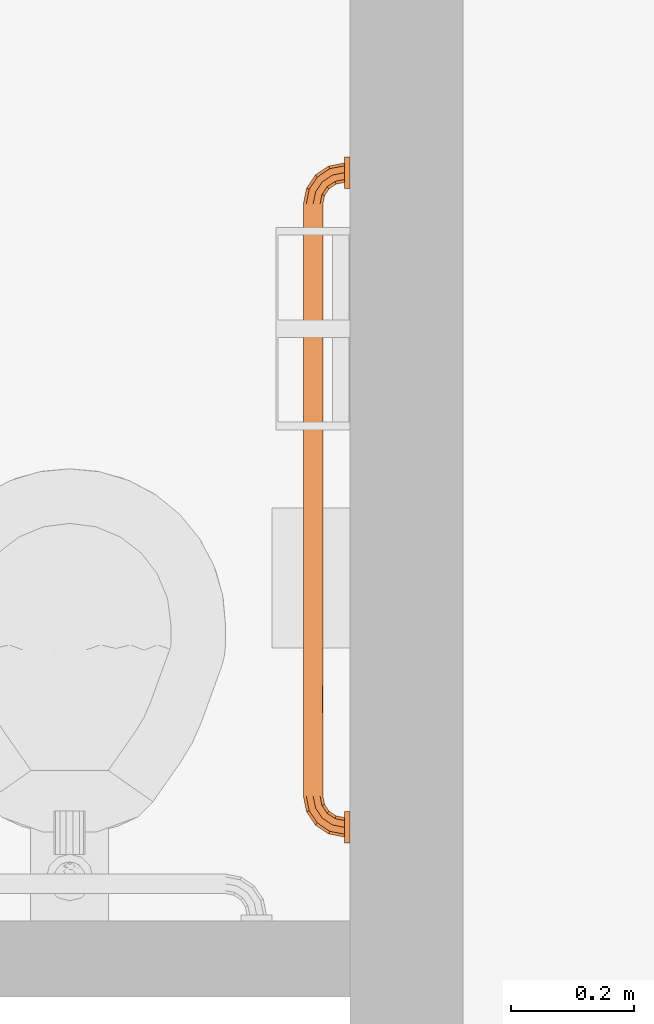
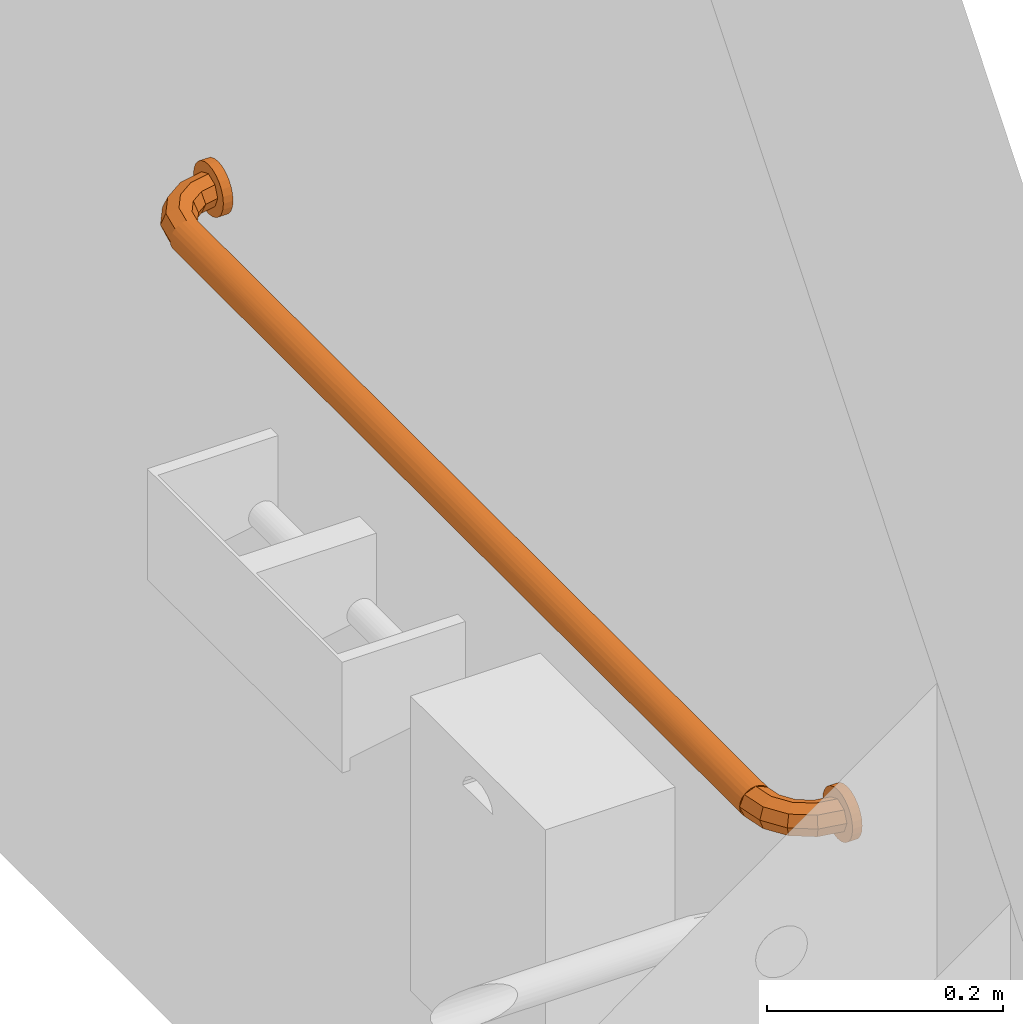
# One storey, part 42 of 142: 1 proxy.
"""IFC2X3 building model written with IfcOpenShell, lengths in feet."""

import ifcopenshell
import ifcopenshell.guid

model = None  # the IFC model being written
_history = None  # IfcOwnerHistory: only IFC2X3 demands one
_inside = {}  # id of a spatial element -> (the spatial element, [elements in it])
_under = {}  # id of a project, library or spatial element -> (it, [spatial elements below it])
_declared = {}  # id of a project -> (the project, [libraries it declares])
_typed = {}  # id of a type object -> (the type object, [elements of that type])
_made_of = {}  # id of a material, layer set ... -> (it, [elements and type objects made of it])


def new_model(schema):
    """Start an empty IFC model of exactly this schema.

    Asked for "IFC4X3", IfcOpenShell would pick the latest addendum, in which some entities
    have other attributes; the version numbers below select the first issue.
    IFC2X3 requires an IfcOwnerHistory on every rooted entity: one is made here for all.
    """
    global model, _history
    if schema == "IFC4X3":
        model = ifcopenshell.file(schema_version=(4, 3, 0, 0))
    else:
        model = ifcopenshell.file(schema=schema)
    _inside.clear()
    _under.clear()
    _declared.clear()
    _typed.clear()
    _made_of.clear()
    _history = None
    if model.schema == "IFC2X3":
        org = make("IfcOrganization", Name="unknown")
        user = make(
            "IfcPersonAndOrganization",
            ThePerson=make("IfcPerson", FamilyName="unknown"),
            TheOrganization=org,
        )
        app = make(
            "IfcApplication",
            ApplicationDeveloper=org,
            Version="unknown",
            ApplicationFullName="unknown",
            ApplicationIdentifier="unknown",
        )
        _history = make(
            "IfcOwnerHistory",
            OwningUser=user,
            OwningApplication=app,
            ChangeAction="ADDED",
            CreationDate=0,
        )
    return model


def make(cls, **values):
    """One entity of the class cls with the attributes given. An attribute that is None is left unset."""
    return model.create_entity(
        cls, **{name: value for name, value in values.items() if value is not None}
    )


def entity(cls, *values):
    """Any entity or typed value of the class cls, its attributes in the order of the schema. None: left unset."""
    e = model.create_entity(cls)
    for i, value in enumerate(values):
        if value is not None:
            e[i] = value
    return e


def rooted(cls, **values):
    """An entity with a GlobalId (a new one), such as an element, a storey or a relation."""
    return make(cls, GlobalId=ifcopenshell.guid.new(), OwnerHistory=_history, **values)


def si_unit(unit_type, name, prefix=None):
    """IfcSIUnit, for example si_unit("LENGTHUNIT", "METRE", prefix="MILLI")."""
    return make("IfcSIUnit", UnitType=unit_type, Prefix=prefix, Name=name)


def converted_unit(unit_type, name, factor, base, dimensions=None, offset=None):
    """IfcConversionBasedUnit, such as the inch: factor (a typed value) times the base unit."""
    return make(
        "IfcConversionBasedUnit"
        if offset is None
        else "IfcConversionBasedUnitWithOffset",
        ConversionOffset=offset,
        Dimensions=None
        if dimensions is None
        else entity("IfcDimensionalExponents", *dimensions),
        UnitType=unit_type,
        Name=name,
        ConversionFactor=make(
            "IfcMeasureWithUnit", ValueComponent=factor, UnitComponent=base
        ),
    )


def derived_unit(unit_type, elements):
    """IfcDerivedUnit: a product of units, each with its exponent."""
    return make(
        "IfcDerivedUnit",
        Elements=[
            make("IfcDerivedUnitElement", Unit=unit, Exponent=power)
            for unit, power in elements
        ],
        UnitType=unit_type,
    )


def assignment(units):
    """IfcUnitAssignment: the units of a project."""
    return None if units is None else make("IfcUnitAssignment", Units=units)


def point(xyz):
    """IfcCartesianPoint."""
    return None if xyz is None else make("IfcCartesianPoint", Coordinates=xyz)


def direction(xyz):
    """IfcDirection."""
    return None if xyz is None else make("IfcDirection", DirectionRatios=xyz)


def frame(location, z_axis=None, x_axis=None):
    """IfcAxis2Placement3D, a coordinate frame: its origin and axes. An axis left out is left unset."""
    return make(
        "IfcAxis2Placement3D",
        Location=point(location),
        Axis=direction(z_axis),
        RefDirection=direction(x_axis),
    )


def origin():
    """The frame at (0, 0, 0) with its axes left unset."""
    return frame((0.0, 0.0, 0.0))


def place(relative_to, where):
    """IfcLocalPlacement: puts the frame where relative to a parent placement (None: the world)."""
    return make(
        "IfcLocalPlacement", PlacementRelTo=relative_to, RelativePlacement=where
    )


def context(
    kind, dimensions, precision=None, world=None, true_north=None, identifier=None
):
    """IfcGeometricRepresentationContext, for example the 3D "Model" context."""
    return make(
        "IfcGeometricRepresentationContext",
        ContextIdentifier=identifier,
        ContextType=kind,
        CoordinateSpaceDimension=dimensions,
        Precision=precision,
        WorldCoordinateSystem=world,
        TrueNorth=true_north,
    )


def subcontext(parent, identifier, kind, view, scale=None):
    """IfcGeometricRepresentationSubContext, for example "Body" below "Model"."""
    return make(
        "IfcGeometricRepresentationSubContext",
        ContextIdentifier=identifier,
        ContextType=kind,
        ParentContext=parent,
        TargetScale=scale,
        TargetView=view,
    )


def project(units=None, contexts=None):
    """IfcProject with its units and contexts."""
    return rooted(
        "IfcProject",
        Name="project",
        RepresentationContexts=contexts,
        UnitsInContext=assignment(units),
    )


def spatial(cls, under=None, at=None, **own):
    """A site, building, storey or space (cls), placed at a placement, below another one or the project."""
    s = rooted(cls, ObjectPlacement=at, **own)
    if under is not None:
        _under.setdefault(under.id(), (under, []))[1].append(s)
    return s


def faces_of(points, faces, orient=None, outer=None):
    """IfcFace entities. A face is a list of loops; a loop is a list of indices into points, from 0.

    orient and outer hold one flag for each loop. By default every Orientation is true, the
    first loop of a face is its IfcFaceOuterBound and the others are IfcFaceBound.
    """
    made = []
    for i, loops in enumerate(faces):
        bounds = []
        for j, loop in enumerate(loops):
            is_outer = j == 0 if outer is None else outer[i][j]
            bounds.append(
                make(
                    "IfcFaceOuterBound" if is_outer else "IfcFaceBound",
                    Bound=make("IfcPolyLoop", Polygon=[points[k] for k in loop]),
                    Orientation=True if orient is None else orient[i][j],
                )
            )
        made.append(make("IfcFace", Bounds=bounds))
    return made


def faceted_brep(points, faces, orient=None, outer=None, voids=None):
    """IfcFacetedBrep: a solid bounded by flat faces; with voids (closed shells), ...WithVoids."""
    shared = [point(p) for p in points]
    hull = make("IfcClosedShell", CfsFaces=faces_of(shared, faces, orient, outer))
    if voids is None:
        return make("IfcFacetedBrep", Outer=hull)
    return make(
        "IfcFacetedBrepWithVoids",
        Outer=hull,
        Voids=[
            make(cls, CfsFaces=faces_of(shared, fs, o, b)) for cls, fs, o, b in voids
        ],
    )


def shape(context_of_items, identifier, shape_type, items):
    """IfcShapeRepresentation: the items that make up one representation, for example the "Body"."""
    return make(
        "IfcShapeRepresentation",
        ContextOfItems=context_of_items,
        RepresentationIdentifier=identifier,
        RepresentationType=shape_type,
        Items=items,
    )


def source(mapping_origin, context_of_items, identifier, shape_type, items):
    """IfcRepresentationMap: a shape defined once, which mapped items show again and again."""
    return make(
        "IfcRepresentationMap",
        MappingOrigin=mapping_origin,
        MappedRepresentation=shape(context_of_items, identifier, shape_type, items),
    )


def transform(
    local_origin,
    x_axis=None,
    y_axis=None,
    z_axis=None,
    scale=None,
    scale2=None,
    scale3=None,
    uniform=True,
):
    """IfcCartesianTransformationOperator3D, or its non-uniform kind. x_axis, y_axis, z_axis: its Axis1, 2, 3."""
    if uniform:
        return make(
            "IfcCartesianTransformationOperator3D",
            Axis1=direction(x_axis),
            Axis2=direction(y_axis),
            LocalOrigin=point(local_origin),
            Scale=scale,
            Axis3=direction(z_axis),
        )
    return make(
        "IfcCartesianTransformationOperator3DnonUniform",
        Axis1=direction(x_axis),
        Axis2=direction(y_axis),
        LocalOrigin=point(local_origin),
        Scale=scale,
        Axis3=direction(z_axis),
        Scale2=scale2,
        Scale3=scale3,
    )


def mapped(mapping_source, mapping_target):
    """IfcMappedItem: shows the shape of a source again, moved by a transform."""
    return make(
        "IfcMappedItem", MappingSource=mapping_source, MappingTarget=mapping_target
    )


def made_of(thing, what):
    """Note that an element or type object is made of a material, layer set ...; save() writes the relation."""
    if what is not None:
        _made_of.setdefault(what.id(), (what, []))[1].append(thing)
    return thing


def type_object(cls, material=None, **own):
    """A type object (cls), such as IfcWallType, which elements share."""
    return made_of(rooted(cls, **own), material)


def type_shapes(of_type, sources):
    """Give a type object the sources (RepresentationMaps) that its elements show as mapped items."""
    of_type.RepresentationMaps = sources


def element(
    cls,
    number,
    at=None,
    inside=None,
    cuts=None,
    type_object=None,
    material=None,
    context=None,
    identifier="Body",
    shape_type=None,
    held_by="IfcProductDefinitionShape",
    body=None,
    shapes=None,
    **own,
):
    """One element of the class cls, such as IfcWall. Its Tag is "e" and its number.

    at: its placement. inside: the storey or other place that contains it. cuts: it is an
    opening in that element (IfcRelVoidsElement). A single representation is given by context,
    identifier, shape_type and body (its items); several are given by shapes. held_by: the class
    of the entity that holds the representations. save() writes the other relations.
    """
    e = rooted(cls, Tag="e%d" % number, ObjectPlacement=at, **own)
    if body is not None:
        shapes = [shape(context, identifier, shape_type, body)]
    if shapes is not None:
        e.Representation = make(held_by, Representations=shapes)
    if inside is not None:
        _inside.setdefault(inside.id(), (inside, []))[1].append(e)
    if cuts is not None:
        rooted(
            "IfcRelVoidsElement", RelatingBuildingElement=cuts, RelatedOpeningElement=e
        )
    if type_object is not None:
        _typed.setdefault(type_object.id(), (type_object, []))[1].append(e)
    return made_of(e, material)


def aggregate(whole, parts):
    """IfcRelAggregates: a whole, such as a stair, and the parts it consists of."""
    return rooted("IfcRelAggregates", RelatingObject=whole, RelatedObjects=parts)


def save(model, path):
    """Write the relations noted so far, then the file.

    IfcRelAggregates (storeys below a building ...), IfcRelContainedInSpatialStructure (elements
    in a storey), IfcRelDefinesByType, IfcRelAssociatesMaterial and IfcRelDeclares: one each for
    every whole, place, type object, material and project.
    """
    for whole, parts in _under.values():
        aggregate(whole, parts)
    for where, things in _inside.values():
        rooted(
            "IfcRelContainedInSpatialStructure",
            RelatedElements=things,
            RelatingStructure=where,
        )
    for kind, things in _typed.values():
        rooted("IfcRelDefinesByType", RelatedObjects=things, RelatingType=kind)
    for what, things in _made_of.values():
        rooted("IfcRelAssociatesMaterial", RelatedObjects=things, RelatingMaterial=what)
    for by, libraries in _declared.values():
        rooted("IfcRelDeclares", RelatingContext=by, RelatedDefinitions=libraries)
    model.write(path)


model = new_model("IFC2X3")

# Units and contexts
model_context = context("Model", 3, precision=0.0001, world=origin(), true_north=direction((6.12303176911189e-17, 1.0)))
body_context = subcontext(model_context, "Body", "Model", "MODEL_VIEW")
ifc_project = project(units=[converted_unit("LENGTHUNIT", "FOOT", entity("IfcRatioMeasure", 0.3048), si_unit("LENGTHUNIT", "METRE"), dimensions=[1, 0, 0, 0, 0, 0, 0]), converted_unit("AREAUNIT", "SQUARE FOOT", entity("IfcRatioMeasure", 0.09290304), si_unit("AREAUNIT", "SQUARE_METRE"), dimensions=[2, 0, 0, 0, 0, 0, 0]), converted_unit("VOLUMEUNIT", "CUBIC FOOT", entity("IfcRatioMeasure", 0.028316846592), si_unit("VOLUMEUNIT", "CUBIC_METRE"), dimensions=[3, 0, 0, 0, 0, 0, 0]), converted_unit("PLANEANGLEUNIT", "DEGREE", entity("IfcRatioMeasure", 0.0174532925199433), si_unit("PLANEANGLEUNIT", "RADIAN"), dimensions=[0, 0, 0, 0, 0, 0, 0]), si_unit("MASSUNIT", "GRAM", prefix="KILO"), derived_unit("MASSDENSITYUNIT", [(si_unit("MASSUNIT", "GRAM", prefix="KILO"), 1), (si_unit("LENGTHUNIT", "METRE"), -3)]), si_unit("TIMEUNIT", "SECOND"), si_unit("FREQUENCYUNIT", "HERTZ"), si_unit("THERMODYNAMICTEMPERATUREUNIT", "DEGREE_CELSIUS"), derived_unit("THERMALTRANSMITTANCEUNIT", [(si_unit("MASSUNIT", "GRAM", prefix="KILO"), 1), (si_unit("THERMODYNAMICTEMPERATUREUNIT", "KELVIN"), -1), (si_unit("TIMEUNIT", "SECOND"), -3)]), derived_unit("VOLUMETRICFLOWRATEUNIT", [(si_unit("LENGTHUNIT", "METRE"), 3), (si_unit("TIMEUNIT", "SECOND"), -1)]), si_unit("ELECTRICCURRENTUNIT", "AMPERE"), si_unit("ELECTRICVOLTAGEUNIT", "VOLT"), si_unit("POWERUNIT", "WATT"), si_unit("FORCEUNIT", "NEWTON"), si_unit("ILLUMINANCEUNIT", "LUX"), si_unit("LUMINOUSFLUXUNIT", "LUMEN"), si_unit("LUMINOUSINTENSITYUNIT", "CANDELA"), derived_unit("USERDEFINED", [(si_unit("MASSUNIT", "GRAM", prefix="KILO"), -1), (si_unit("LENGTHUNIT", "METRE"), -2), (si_unit("TIMEUNIT", "SECOND"), 3), (si_unit("LUMINOUSFLUXUNIT", "LUMEN"), 1)]), derived_unit("LINEARVELOCITYUNIT", [(si_unit("LENGTHUNIT", "METRE"), 1), (si_unit("TIMEUNIT", "SECOND"), -1)]), si_unit("PRESSUREUNIT", "PASCAL"), derived_unit("USERDEFINED", [(si_unit("LENGTHUNIT", "METRE"), -2), (si_unit("MASSUNIT", "GRAM", prefix="KILO"), 1), (si_unit("TIMEUNIT", "SECOND"), -2)])], contexts=[model_context])

# Site, building, storey, space
site_placement = place(None, origin())
site = spatial("IfcSite", under=ifc_project, at=site_placement, Name="Default", CompositionType="ELEMENT")
building_placement = place(site_placement, origin())
building = spatial("IfcBuilding", under=site, at=building_placement, Name="OUTPATIENT / PACT CLINIC (Ch. 265)", CompositionType="ELEMENT")
storey_placement = place(building_placement, origin())
storey = spatial("IfcBuildingStorey", under=building, at=storey_placement, Name="LEVEL 1", CompositionType="ELEMENT", Elevation=0.0)
space_placement = place(storey_placement, origin())
space = spatial("IfcSpace", under=storey, at=space_placement, Name="TPG01", CompositionType="ELEMENT", InteriorOrExteriorSpace="INTERNAL")

# Proxy
building_element_proxy_type = type_object("IfcBuildingElementProxyType", Name="A5109 - Grab Bar, 1.25 in Dia, SS, 2 Wall, W-C Accessible_Improved", PredefinedType="NOTDEFINED")
shared_shape = source(origin(), body_context, "Body", "Brep", [
    faceted_brep([(0.897113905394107, -0.185229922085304, 0.05208333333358), (0.883020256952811, -0.151204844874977, 0.0368284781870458), (0.833333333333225, -0.161088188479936, 0.0368284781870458), (0.8333333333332, -0.197916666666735, 0.05208333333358), (0.877182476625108, -0.137111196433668, 0.0), (0.833333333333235, -0.145833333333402, 0.0), (0.883020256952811, -0.151204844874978, -0.0368284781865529), (0.833333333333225, -0.161088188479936, -0.0368284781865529), (0.897113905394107, -0.185229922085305, -0.0520833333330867), (0.8333333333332, -0.197916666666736, -0.0520833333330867), (0.911207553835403, -0.219254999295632, -0.0368284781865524), (0.833333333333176, -0.234745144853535, -0.0368284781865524), (0.917045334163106, -0.233348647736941, 0.0), (0.833333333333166, -0.250000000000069, 0.0), (0.911207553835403, -0.219254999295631, 0.0368284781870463), (0.833333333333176, -0.234745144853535, 0.0368284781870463), (0.951184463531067, -0.149101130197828, 0.05208333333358), (0.925142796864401, -0.123059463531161, 0.0368284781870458), (0.914355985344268, -0.112272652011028, 0.0), (0.925142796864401, -0.123059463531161, -0.0368284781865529), (0.951184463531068, -0.149101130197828, -0.0520833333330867), (0.977226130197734, -0.175142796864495, -0.0368284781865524), (0.988012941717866, -0.185929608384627, 0.0), (0.977226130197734, -0.175142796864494, 0.0368284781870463), (0.987313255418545, -0.0950305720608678, 0.05208333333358), (0.953288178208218, -0.0809369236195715, 0.0368284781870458), (0.939194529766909, -0.0750991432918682, 0.0), (0.953288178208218, -0.0809369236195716, -0.0368284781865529), (0.987313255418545, -0.0950305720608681, -0.0520833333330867), (1.02133833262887, -0.109124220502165, -0.0368284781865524), (1.03543198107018, -0.114962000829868, 0.0), (1.02133833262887, -0.109124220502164, 0.0368284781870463), (1.0, -0.0312499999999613, 0.05208333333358), (0.963171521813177, -0.031249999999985, 0.0368284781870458), (0.947916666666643, -0.0312499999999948, 0.0), (0.963171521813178, -0.031249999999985, -0.0368284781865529), (1.0, -0.0312499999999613, -0.0520833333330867), (1.03682847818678, -0.0312499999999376, -0.0368284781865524), (1.05208333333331, -0.0312499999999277, 0.0), (1.03682847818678, -0.0312499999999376, 0.0368284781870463)], [[[0, 1, 2, 3]], [[1, 4, 5, 2]], [[4, 6, 7, 5]], [[6, 8, 9, 7]], [[8, 10, 11, 9]], [[10, 12, 13, 11]], [[12, 14, 15, 13]], [[14, 0, 3, 15]], [[16, 17, 1, 0]], [[17, 18, 4, 1]], [[18, 19, 6, 4]], [[19, 20, 8, 6]], [[20, 21, 10, 8]], [[21, 22, 12, 10]], [[22, 23, 14, 12]], [[23, 16, 0, 14]], [[24, 25, 17, 16]], [[25, 26, 18, 17]], [[26, 27, 19, 18]], [[27, 28, 20, 19]], [[28, 29, 21, 20]], [[29, 30, 22, 21]], [[30, 31, 23, 22]], [[31, 24, 16, 23]], [[32, 33, 25, 24]], [[33, 34, 26, 25]], [[34, 35, 27, 26]], [[35, 36, 28, 27]], [[36, 37, 29, 28]], [[37, 38, 30, 29]], [[38, 39, 31, 30]], [[39, 32, 24, 31]], [[3, 2, 5, 7, 9, 11, 13, 15]], [[39, 38, 37, 36, 35, 34, 33, 32]]]),
    faceted_brep([(0.978431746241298, -0.0312499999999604, -0.0804938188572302), (1.0, -0.0312499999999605, -0.0833333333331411), (1.02156825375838, -0.0312499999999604, -0.08049381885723), (1.04166666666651, -0.0312499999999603, -0.0721687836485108), (1.05892556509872, -0.0312499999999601, -0.0589255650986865), (1.07216878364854, -0.0312499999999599, -0.0416666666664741), (1.08049381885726, -0.0312499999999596, -0.0215682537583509), (1.08333333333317, -0.0312499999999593, 0.0), (1.08049381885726, -0.031249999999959, 0.0215682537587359), (1.07216878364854, -0.0312499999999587, 0.0416666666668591), (1.05892556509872, -0.0312499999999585, 0.0589255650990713), (1.04166666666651, -0.0312499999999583, 0.0721687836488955), (1.02156825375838, -0.0312499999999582, 0.0804938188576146), (1.0, -0.0312499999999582, 0.0833333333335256), (0.978431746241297, -0.0312499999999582, 0.0804938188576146), (0.958333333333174, -0.0312499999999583, 0.0721687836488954), (0.941074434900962, -0.0312499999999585, 0.0589255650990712), (0.927831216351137, -0.0312499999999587, 0.0416666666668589), (0.919506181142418, -0.031249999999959, 0.0215682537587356), (0.916666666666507, -0.0312499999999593, 0.0), (0.919506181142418, -0.0312499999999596, -0.0215682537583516), (0.927831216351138, -0.0312499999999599, -0.0416666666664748), (0.941074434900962, -0.0312499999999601, -0.058925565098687), (0.958333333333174, -0.0312499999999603, -0.0721687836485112), (1.0, 0.0, 0.0833333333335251), (1.02156825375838, 0.0, 0.0804938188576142), (1.04166666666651, 0.0, 0.0721687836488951), (1.05892556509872, 0.0, 0.0589255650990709), (1.07216878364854, 0.0, 0.0416666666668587), (1.08049381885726, 0.0, 0.0215682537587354), (1.08333333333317, 0.0, 0.0), (1.08049381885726, 0.0, -0.0215682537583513), (1.07216878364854, 0.0, -0.0416666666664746), (1.05892556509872, 0.0, -0.0589255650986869), (1.04166666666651, 0.0, -0.0721687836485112), (1.02156825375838, 0.0, -0.0804938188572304), (1.0, 0.0, -0.0833333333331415), (0.978431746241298, 0.0, -0.0804938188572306), (0.958333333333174, 0.0, -0.0721687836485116), (0.941074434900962, 0.0, -0.0589255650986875), (0.927831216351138, 0.0, -0.0416666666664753), (0.919506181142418, 0.0, -0.0215682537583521), (0.916666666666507, 0.0, 0.0), (0.919506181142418, 0.0, 0.0215682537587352), (0.927831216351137, 0.0, 0.0416666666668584), (0.941074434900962, 0.0, 0.0589255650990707), (0.958333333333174, 0.0, 0.072168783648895), (0.978431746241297, 0.0, 0.0804938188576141)], [[[0, 1, 2, 3, 4, 5, 6, 7, 8, 9, 10, 11, 12, 13, 14, 15, 16, 17, 18, 19, 20, 21, 22, 23]], [[24, 25, 26, 27, 28, 29, 30, 31, 32, 33, 34, 35, 36, 37, 38, 39, 40, 41, 42, 43, 44, 45, 46, 47]], [[30, 7, 6, 31]], [[31, 6, 5, 32]], [[34, 33, 4, 3]], [[4, 33, 32, 5]], [[35, 34, 3, 2]], [[35, 2, 1, 36]], [[36, 1, 0, 37]], [[37, 0, 23, 38]], [[40, 39, 22, 21]], [[22, 39, 38, 23]], [[41, 40, 21, 20]], [[41, 20, 19, 42]], [[42, 19, 18, 43]], [[43, 18, 17, 44]], [[46, 45, 16, 15]], [[16, 45, 44, 17]], [[47, 46, 15, 14]], [[47, 14, 13, 24]], [[24, 13, 12, 25]], [[25, 12, 11, 26]], [[28, 27, 10, 9]], [[10, 27, 26, 11]], [[29, 28, 9, 8]], [[29, 8, 7, 30]]]),
    faceted_brep([(-2.4873132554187, -0.0950305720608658, 0.0520833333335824), (-2.45328817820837, -0.0809369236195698, 0.0368284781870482), (-2.46317152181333, -0.0312499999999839, 0.0368284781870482), (-2.50000000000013, -0.0312499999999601, 0.0520833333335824), (-2.43919452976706, -0.0750991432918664, 0.0), (-2.4479166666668, -0.0312499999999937, 0.0), (-2.45328817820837, -0.0809369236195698, -0.0368284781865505), (-2.46317152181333, -0.0312499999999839, -0.0368284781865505), (-2.4873132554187, -0.0950305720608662, -0.0520833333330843), (-2.50000000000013, -0.0312499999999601, -0.0520833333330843), (-2.52133833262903, -0.109124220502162, -0.03682847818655), (-2.53682847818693, -0.0312499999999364, -0.03682847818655), (-2.53543198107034, -0.114962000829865, 0.0), (-2.55208333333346, -0.0312499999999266, 0.0), (-2.52133833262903, -0.109124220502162, 0.0368284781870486), (-2.53682847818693, -0.0312499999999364, 0.0368284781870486), (-2.45118446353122, -0.149101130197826, 0.0520833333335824), (-2.42514279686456, -0.123059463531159, 0.0368284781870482), (-2.41435598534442, -0.112272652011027, 0.0), (-2.42514279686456, -0.123059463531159, -0.0368284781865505), (-2.45118446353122, -0.149101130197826, -0.0520833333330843), (-2.47722613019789, -0.175142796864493, -0.03682847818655), (-2.48801294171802, -0.185929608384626, 0.0), (-2.47722613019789, -0.175142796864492, 0.0368284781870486), (-2.39711390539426, -0.185229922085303, 0.0520833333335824), (-2.38302025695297, -0.151204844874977, 0.0368284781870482), (-2.37718247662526, -0.137111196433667, 0.0), (-2.38302025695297, -0.151204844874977, -0.0368284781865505), (-2.39711390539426, -0.185229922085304, -0.0520833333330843), (-2.41120755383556, -0.219254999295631, -0.03682847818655), (-2.41704533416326, -0.23334864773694, 0.0), (-2.41120755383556, -0.21925499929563, 0.0368284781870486), (-2.33333333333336, -0.197916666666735, 0.0520833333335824), (-2.33333333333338, -0.161088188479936, 0.0368284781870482), (-2.33333333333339, -0.145833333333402, 0.0), (-2.33333333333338, -0.161088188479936, -0.0368284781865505), (-2.33333333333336, -0.197916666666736, -0.0520833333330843), (-2.33333333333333, -0.234745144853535, -0.03682847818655), (-2.33333333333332, -0.250000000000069, 0.0), (-2.33333333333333, -0.234745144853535, 0.0368284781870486)], [[[0, 1, 2, 3]], [[1, 4, 5, 2]], [[4, 6, 7, 5]], [[6, 8, 9, 7]], [[8, 10, 11, 9]], [[10, 12, 13, 11]], [[12, 14, 15, 13]], [[14, 0, 3, 15]], [[16, 17, 1, 0]], [[17, 18, 4, 1]], [[18, 19, 6, 4]], [[19, 20, 8, 6]], [[20, 21, 10, 8]], [[21, 22, 12, 10]], [[22, 23, 14, 12]], [[23, 16, 0, 14]], [[24, 25, 17, 16]], [[25, 26, 18, 17]], [[26, 27, 19, 18]], [[27, 28, 20, 19]], [[28, 29, 21, 20]], [[29, 30, 22, 21]], [[30, 31, 23, 22]], [[31, 24, 16, 23]], [[32, 33, 25, 24]], [[33, 34, 26, 25]], [[34, 35, 27, 26]], [[35, 36, 28, 27]], [[36, 37, 29, 28]], [[37, 38, 30, 29]], [[38, 39, 31, 30]], [[39, 32, 24, 31]], [[3, 2, 5, 7, 9, 11, 13, 15]], [[39, 38, 37, 36, 35, 34, 33, 32]]]),
    faceted_brep([(-2.45833333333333, -0.0312499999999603, -0.0721687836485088), (-2.44107443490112, -0.0312499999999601, -0.0589255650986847), (-2.42783121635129, -0.0312499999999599, -0.0416666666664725), (-2.41950618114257, -0.0312499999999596, -0.0215682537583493), (-2.41666666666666, -0.0312499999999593, 0.0), (-2.41950618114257, -0.031249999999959, 0.021568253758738), (-2.42783121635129, -0.0312499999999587, 0.0416666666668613), (-2.44107443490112, -0.0312499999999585, 0.0589255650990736), (-2.45833333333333, -0.0312499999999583, 0.0721687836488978), (-2.47843174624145, -0.0312499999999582, 0.080493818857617), (-2.49999999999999, -0.0312499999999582, 0.083333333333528), (-2.52156825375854, -0.0312499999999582, 0.080493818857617), (-2.54166666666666, -0.0312499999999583, 0.0721687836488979), (-2.55892556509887, -0.0312499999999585, 0.0589255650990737), (-2.5721687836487, -0.0312499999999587, 0.0416666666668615), (-2.58049381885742, -0.031249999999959, 0.0215682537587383), (-2.58333333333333, -0.0312499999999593, 0.0), (-2.58049381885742, -0.0312499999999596, -0.0215682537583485), (-2.5721687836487, -0.0312499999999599, -0.0416666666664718), (-2.55892556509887, -0.0312499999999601, -0.0589255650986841), (-2.54166666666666, -0.0312499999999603, -0.0721687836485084), (-2.52156825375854, -0.0312499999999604, -0.0804938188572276), (-2.5, -0.0312499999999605, -0.0833333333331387), (-2.47843174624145, -0.0312499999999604, -0.0804938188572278), (-2.47843174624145, 0.0, 0.0804938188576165), (-2.45833333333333, 0.0, 0.0721687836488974), (-2.44107443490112, 0.0, 0.0589255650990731), (-2.42783121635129, 0.0, 0.0416666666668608), (-2.41950618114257, 0.0, 0.0215682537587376), (-2.41666666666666, 0.0, 0.0), (-2.41950618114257, 0.0, -0.0215682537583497), (-2.42783121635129, 0.0, -0.0416666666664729), (-2.44107443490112, 0.0, -0.0589255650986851), (-2.45833333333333, 0.0, -0.0721687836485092), (-2.47843174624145, 0.0, -0.0804938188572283), (-2.5, 0.0, -0.0833333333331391), (-2.52156825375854, 0.0, -0.0804938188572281), (-2.54166666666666, 0.0, -0.0721687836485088), (-2.55892556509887, 0.0, -0.0589255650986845), (-2.5721687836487, 0.0, -0.0416666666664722), (-2.58049381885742, 0.0, -0.0215682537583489), (-2.58333333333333, 0.0, 0.0), (-2.58049381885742, 0.0, 0.0215682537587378), (-2.5721687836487, 0.0, 0.0416666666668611), (-2.55892556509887, 0.0, 0.0589255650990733), (-2.54166666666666, 0.0, 0.0721687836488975), (-2.52156825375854, 0.0, 0.0804938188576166), (-2.49999999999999, 0.0, 0.0833333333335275)], [[[0, 1, 2, 3, 4, 5, 6, 7, 8, 9, 10, 11, 12, 13, 14, 15, 16, 17, 18, 19, 20, 21, 22, 23]], [[24, 25, 26, 27, 28, 29, 30, 31, 32, 33, 34, 35, 36, 37, 38, 39, 40, 41, 42, 43, 44, 45, 46, 47]], [[40, 17, 16, 41]], [[39, 18, 17, 40]], [[20, 19, 38, 37]], [[39, 38, 19, 18]], [[21, 20, 37, 36]], [[22, 21, 36, 35]], [[34, 23, 22, 35]], [[33, 0, 23, 34]], [[2, 1, 32, 31]], [[33, 32, 1, 0]], [[3, 2, 31, 30]], [[4, 3, 30, 29]], [[28, 5, 4, 29]], [[27, 6, 5, 28]], [[8, 7, 26, 25]], [[27, 26, 7, 6]], [[9, 8, 25, 24]], [[10, 9, 24, 47]], [[46, 11, 10, 47]], [[45, 12, 11, 46]], [[14, 13, 44, 43]], [[45, 44, 13, 12]], [[15, 14, 43, 42]], [[16, 15, 42, 41]]]),
    faceted_brep([(0.833333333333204, -0.171875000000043, 0.0451054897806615), (0.833333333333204, -0.18443650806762, 0.0503086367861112), (0.833333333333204, -0.19791666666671, 0.0520833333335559), (0.833333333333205, -0.211396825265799, 0.0503086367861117), (0.833333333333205, -0.223958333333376, 0.0451054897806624), (0.833333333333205, -0.234745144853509, 0.0368284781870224), (0.833333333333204, -0.24302215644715, 0.0260416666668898), (0.833333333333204, -0.248225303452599, 0.0134801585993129), (0.833333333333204, -0.250000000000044, 0.0), (0.833333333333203, -0.2482253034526, -0.0134801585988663), (0.833333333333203, -0.24302215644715, -0.0260416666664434), (0.833333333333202, -0.23474514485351, -0.0368284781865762), (0.833333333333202, -0.223958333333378, -0.0451054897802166), (0.833333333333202, -0.211396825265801, -0.0503086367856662), (0.833333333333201, -0.197916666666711, -0.0520833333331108), (0.833333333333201, -0.184436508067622, -0.0503086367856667), (0.833333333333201, -0.171875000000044, -0.0451054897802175), (0.833333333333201, -0.161088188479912, -0.0368284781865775), (0.833333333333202, -0.152811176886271, -0.026041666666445), (0.833333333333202, -0.147608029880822, -0.013480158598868), (0.833333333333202, -0.145833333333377, 0.0), (0.833333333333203, -0.147608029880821, 0.0134801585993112), (0.833333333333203, -0.15281117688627, 0.0260416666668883), (0.833333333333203, -0.16108818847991, 0.0368284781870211), (-2.33333333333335, -0.250000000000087, 0.0), (-2.33333333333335, -0.248225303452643, 0.0134801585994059), (-2.33333333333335, -0.243022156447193, 0.0260416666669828), (-2.33333333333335, -0.234745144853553, 0.0368284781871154), (-2.33333333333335, -0.22395833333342, 0.0451054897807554), (-2.33333333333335, -0.211396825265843, 0.0503086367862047), (-2.33333333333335, -0.197916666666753, 0.0520833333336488), (-2.33333333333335, -0.184436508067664, 0.0503086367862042), (-2.33333333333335, -0.171875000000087, 0.0451054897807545), (-2.33333333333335, -0.161088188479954, 0.0368284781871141), (-2.33333333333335, -0.152811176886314, 0.0260416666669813), (-2.33333333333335, -0.147608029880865, 0.0134801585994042), (-2.33333333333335, -0.145833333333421, 0.0), (-2.33333333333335, -0.147608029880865, -0.013480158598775), (-2.33333333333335, -0.152811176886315, -0.026041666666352), (-2.33333333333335, -0.161088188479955, -0.0368284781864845), (-2.33333333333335, -0.171875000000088, -0.0451054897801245), (-2.33333333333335, -0.184436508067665, -0.0503086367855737), (-2.33333333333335, -0.197916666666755, -0.0520833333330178), (-2.33333333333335, -0.211396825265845, -0.0503086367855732), (-2.33333333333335, -0.223958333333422, -0.0451054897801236), (-2.33333333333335, -0.234745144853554, -0.0368284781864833), (-2.33333333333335, -0.243022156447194, -0.0260416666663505), (-2.33333333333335, -0.248225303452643, -0.0134801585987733), (-1.67492969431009, -0.166210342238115, -0.0413204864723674), (-0.311848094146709, -0.148126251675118, -0.0152835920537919), (0.196503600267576, -0.149797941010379, -0.0199314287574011), (-0.276748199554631, -0.151866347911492, -0.0243319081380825), (0.29993908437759, -0.18649594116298, 0.0508157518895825), (0.0101222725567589, -0.177985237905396, 0.0481187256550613), (-1.67492969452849, -0.14979794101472, -0.0199314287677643), (-1.42456747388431, -0.156596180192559, -0.0317063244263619), (-0.755977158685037, -0.156060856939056, 0.0309962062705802), (-1.23645507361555, -0.151490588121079, 0.0236070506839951), (-1.42456747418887, -0.156596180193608, 0.0317063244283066), (-1.67492969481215, -0.166210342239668, 0.0413204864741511), (0.196503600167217, -0.166210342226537, -0.0413204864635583), (0.196503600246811, -0.166210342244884, 0.0413204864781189), (-1.67492969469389, -0.146278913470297, 0.00679823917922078), (-1.42456747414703, -0.146278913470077, -0.00679823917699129), (-1.42046336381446, -0.197916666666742, -0.0520833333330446), (-1.78579026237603, -0.188851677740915, -0.0512883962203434), (-1.30622143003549, -0.188929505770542, -0.0513020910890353), (0.353111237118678, -0.188470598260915, -0.0512195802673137), (0.376897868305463, -0.197916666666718, -0.0520833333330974), (0.162869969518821, -0.197916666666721, -0.0520833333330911), (-1.42044746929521, -0.19791666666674, 0.052083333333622), (-1.79525717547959, -0.189086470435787, 0.0513293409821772), (0.0101222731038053, -0.156596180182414, -0.0317063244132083), (-0.543829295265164, -0.166210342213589, -0.041320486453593), (-0.0754325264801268, -0.146278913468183, -0.00679823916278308), (-0.0333583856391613, -0.146886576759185, 0.0104213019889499), (0.0101222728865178, -0.177985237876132, -0.0481187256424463), (-0.172360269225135, -0.188469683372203, -0.0512194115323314), (-1.72253061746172, -0.149797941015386, 0.019931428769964), (-0.750000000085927, -0.149797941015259, -0.019931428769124), (-0.711016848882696, -0.156707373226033, -0.0318507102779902), (-0.863636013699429, -0.146048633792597, 0.00473083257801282), (-1.10937949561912, -0.163299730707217, 0.0389145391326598), (-0.7737053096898, -0.146416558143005, -0.00777254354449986), (0.344326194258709, -0.148857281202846, 0.0174885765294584), (-1.2362653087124, -0.147768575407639, 0.0140656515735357), (-1.89605715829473, -0.177985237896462, -0.0481187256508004), (-0.743946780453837, -0.175651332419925, -0.0470842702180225), (-0.543829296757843, -0.166210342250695, 0.0413204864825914), (-1.20643546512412, -0.188019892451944, 0.051134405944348), (-0.992408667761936, -0.197916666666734, 0.0520833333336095), (-0.53595087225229, -0.197916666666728, 0.0520833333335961), (-0.662425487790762, -0.180266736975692, 0.0490015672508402), (-1.33497324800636, -0.177985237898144, 0.0481187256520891), (-1.87503514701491, -0.179059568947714, 0.0485498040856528), (0.0101222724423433, -0.156596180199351, 0.0317063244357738), (-0.242367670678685, -0.187420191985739, 0.0510146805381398), (-1.10937949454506, -0.168131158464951, -0.0427258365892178), (-0.842730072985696, -0.186586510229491, -0.0508360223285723), (-0.136483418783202, -0.150566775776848, 0.0216947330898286), (-0.750000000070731, -0.149797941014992, 0.0199314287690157), (-1.33497324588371, -0.177985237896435, -0.0481187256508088), (-0.0795375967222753, -0.197916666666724, -0.052083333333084), (-0.50759339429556, -0.19791666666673, -0.0520833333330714), (-0.535973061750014, -0.197916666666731, -0.0520833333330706), (-0.992408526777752, -0.197916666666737, -0.0520833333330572), (-0.0795228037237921, -0.197916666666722, 0.0520833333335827), (0.162872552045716, -0.197916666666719, 0.0520833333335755), (0.376905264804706, -0.197916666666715, 0.0520833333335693), (-0.507588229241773, -0.197916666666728, 0.0520833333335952), (-1.67492969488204, -0.229622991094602, 0.0413204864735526), (-0.311848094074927, -0.247707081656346, 0.0152835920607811), (0.196503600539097, -0.246035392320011, 0.0199314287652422), (-0.27674819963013, -0.243966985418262, 0.0243319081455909), (0.299939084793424, -0.209337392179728, -0.050815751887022), (0.0101222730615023, -0.217848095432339, -0.0481187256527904), (-1.67492969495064, -0.246035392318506, 0.0199314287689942), (-1.42456747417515, -0.239237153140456, 0.0317063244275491), (-0.755977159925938, -0.239772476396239, -0.0309962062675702), (-1.23645507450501, -0.244342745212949, -0.0236070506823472), (-1.42456747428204, -0.239237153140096, -0.0317063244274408), (-1.67492969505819, -0.229622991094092, -0.0413204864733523), (0.196503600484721, -0.229622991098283, 0.0413204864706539), (0.196503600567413, -0.229622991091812, -0.0413204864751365), (-1.67492969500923, -0.249554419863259, -0.00679823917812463), (-1.42456747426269, -0.249554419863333, 0.00679823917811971), (-1.7857902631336, -0.206981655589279, 0.0512883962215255), (-1.30622143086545, -0.206903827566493, 0.0513020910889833), (0.353111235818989, -0.207362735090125, 0.05121958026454), (-1.79525717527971, -0.206746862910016, -0.0513293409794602), (0.010122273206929, -0.23923715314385, 0.0317063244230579), (-0.543829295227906, -0.229622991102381, 0.0413204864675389), (-0.0754325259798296, -0.249554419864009, 0.00679823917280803), (-0.0333583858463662, -0.248946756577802, -0.0104213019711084), (0.0101222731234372, -0.217848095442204, 0.0481187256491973), (-0.172360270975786, -0.207363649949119, 0.0512194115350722), (-1.72253061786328, -0.246035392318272, -0.0199314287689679), (-0.750000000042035, -0.246035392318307, 0.0199314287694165), (-0.711016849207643, -0.239125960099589, 0.0318507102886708), (-0.863636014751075, -0.24978469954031, -0.0047308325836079), (-1.10937949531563, -0.232533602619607, -0.0389145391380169), (-0.773705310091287, -0.249416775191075, 0.00777254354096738), (0.344326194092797, -0.246976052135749, -0.0174885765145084), (-1.23626530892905, -0.248064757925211, -0.0140656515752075), (-1.89605715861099, -0.217848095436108, 0.0481187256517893), (-0.743946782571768, -0.220182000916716, 0.0470842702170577), (-0.543829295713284, -0.229622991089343, -0.0413204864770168), (-1.20643546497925, -0.207813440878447, -0.0511344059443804), (-0.662425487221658, -0.215566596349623, -0.0490015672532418), (-1.33497324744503, -0.217848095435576, -0.0481187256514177), (-1.87503514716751, -0.216773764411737, -0.0485498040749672), (0.0101222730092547, -0.239237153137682, -0.0317063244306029), (-0.24236766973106, -0.208413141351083, -0.0510146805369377), (-1.10937949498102, -0.227702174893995, 0.0427258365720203), (-0.842730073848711, -0.209246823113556, 0.0508360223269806), (-0.136483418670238, -0.245266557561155, -0.0216947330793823), (-0.75000000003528, -0.246035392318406, -0.0199314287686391), (-1.33497324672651, -0.217848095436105, 0.0481187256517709)], [[[0, 1, 2, 3, 4, 5, 6, 7, 8, 9, 10, 11, 12, 13, 14, 15, 16, 17, 18, 19, 20, 21, 22, 23]], [[24, 25, 26, 27, 28, 29, 30, 31, 32, 33, 34, 35, 36, 37, 38, 39, 40, 41, 42, 43, 44, 45, 46, 47]], [[39, 48, 40]], [[49, 50, 51]], [[52, 1, 53]], [[54, 38, 37]], [[54, 55, 38]], [[56, 57, 58]], [[33, 32, 59]], [[16, 60, 17]], [[61, 0, 23]], [[36, 62, 63]], [[64, 65, 66]], [[37, 36, 63]], [[48, 39, 55]], [[55, 39, 38]], [[34, 33, 58]], [[67, 14, 68, 69]], [[30, 70, 71]], [[72, 60, 73]], [[72, 18, 17]], [[20, 74, 75]], [[19, 18, 50]], [[76, 60, 16]], [[50, 18, 72]], [[69, 77, 67]], [[78, 62, 35]], [[79, 80, 55]], [[81, 75, 74]], [[59, 58, 33]], [[82, 58, 59]], [[63, 62, 81]], [[62, 36, 35]], [[76, 16, 15]], [[83, 63, 81]], [[53, 1, 0]], [[19, 74, 20]], [[84, 22, 21]], [[85, 62, 78]], [[86, 41, 40]], [[76, 77, 87]], [[61, 88, 53]], [[89, 70, 90, 91]], [[92, 93, 89]], [[94, 31, 71]], [[41, 86, 65]], [[23, 95, 61]], [[96, 53, 92]], [[80, 72, 73]], [[79, 55, 54]], [[73, 87, 97]], [[95, 23, 22]], [[98, 87, 77]], [[99, 84, 75]], [[56, 100, 57]], [[92, 88, 93]], [[96, 52, 53]], [[91, 96, 92]], [[41, 65, 42]], [[70, 89, 71]], [[93, 94, 71]], [[88, 92, 53]], [[35, 34, 78]], [[62, 85, 81]], [[75, 81, 100]], [[63, 83, 79]], [[99, 75, 100]], [[75, 21, 20]], [[37, 63, 54]], [[79, 54, 63]], [[55, 80, 97]], [[86, 48, 101]], [[94, 59, 32]], [[82, 93, 88]], [[93, 71, 89]], [[30, 71, 31]], [[51, 50, 72]], [[74, 19, 50]], [[73, 60, 76]], [[72, 17, 60]], [[88, 61, 95]], [[77, 69, 102, 103]], [[53, 0, 61]], [[34, 58, 78]], [[78, 57, 85]], [[59, 94, 93]], [[32, 31, 94]], [[98, 77, 103]], [[67, 76, 15]], [[98, 103, 104, 105, 64]], [[98, 101, 87]], [[97, 101, 48]], [[76, 87, 73]], [[101, 97, 87]], [[55, 97, 48]], [[76, 67, 77]], [[14, 67, 15]], [[89, 91, 92]], [[52, 106, 107, 108, 2]], [[52, 2, 1]], [[106, 52, 96]], [[96, 91, 109, 106]], [[57, 78, 58]], [[81, 85, 100]], [[56, 58, 82]], [[100, 85, 57]], [[48, 86, 40]], [[98, 66, 101]], [[101, 65, 86]], [[42, 65, 64]], [[101, 66, 65]], [[98, 64, 66]], [[81, 74, 83]], [[49, 83, 74]], [[93, 82, 59]], [[88, 95, 56]], [[88, 56, 82]], [[99, 56, 95]], [[80, 79, 51]], [[97, 80, 73]], [[56, 99, 100]], [[84, 95, 22]], [[84, 99, 95]], [[21, 75, 84]], [[80, 51, 72]], [[49, 51, 79]], [[83, 49, 79]], [[50, 49, 74]], [[27, 110, 28]], [[111, 112, 113]], [[114, 13, 115]], [[116, 26, 25]], [[116, 117, 26]], [[118, 119, 120]], [[45, 44, 121]], [[4, 122, 5]], [[123, 12, 11]], [[24, 124, 125]], [[70, 126, 127]], [[25, 24, 125]], [[110, 27, 117]], [[117, 27, 26]], [[46, 45, 120]], [[128, 2, 108, 107]], [[42, 64, 129]], [[130, 122, 131]], [[130, 6, 5]], [[8, 132, 133]], [[7, 6, 112]], [[134, 122, 4]], [[112, 6, 130]], [[107, 135, 128]], [[136, 124, 47]], [[137, 138, 117]], [[139, 133, 132]], [[121, 120, 45]], [[140, 120, 121]], [[125, 124, 139]], [[124, 24, 47]], [[134, 4, 3]], [[141, 125, 139]], [[115, 13, 12]], [[7, 132, 8]], [[142, 10, 9]], [[143, 124, 136]], [[144, 29, 28]], [[134, 135, 145]], [[123, 146, 115]], [[147, 64, 105, 104]], [[148, 149, 147]], [[150, 43, 129]], [[29, 144, 126]], [[11, 151, 123]], [[152, 115, 148]], [[138, 130, 131]], [[137, 117, 116]], [[131, 145, 153]], [[151, 11, 10]], [[154, 145, 135]], [[155, 142, 133]], [[118, 156, 119]], [[148, 146, 149]], [[152, 114, 115]], [[104, 152, 148]], [[29, 126, 30]], [[64, 147, 129]], [[149, 150, 129]], [[146, 148, 115]], [[47, 46, 136]], [[124, 143, 139]], [[133, 139, 156]], [[125, 141, 137]], [[155, 133, 156]], [[133, 9, 8]], [[25, 125, 116]], [[137, 116, 125]], [[117, 138, 153]], [[144, 110, 157]], [[131, 122, 134]], [[150, 121, 44]], [[140, 149, 146]], [[149, 129, 147]], [[42, 129, 43]], [[113, 112, 130]], [[132, 7, 112]], [[130, 5, 122]], [[146, 123, 151]], [[135, 107, 106, 109]], [[115, 12, 123]], [[46, 120, 136]], [[136, 119, 143]], [[121, 150, 149]], [[44, 43, 150]], [[154, 135, 109]], [[128, 134, 3]], [[154, 109, 91, 90, 70]], [[154, 157, 145]], [[153, 157, 110]], [[134, 145, 131]], [[157, 153, 145]], [[117, 153, 110]], [[134, 128, 135]], [[2, 128, 3]], [[147, 104, 148]], [[114, 102, 69, 68, 14]], [[114, 14, 13]], [[102, 114, 152]], [[152, 104, 103, 102]], [[119, 136, 120]], [[139, 143, 156]], [[118, 120, 140]], [[156, 143, 119]], [[110, 144, 28]], [[154, 127, 157]], [[157, 126, 144]], [[30, 126, 70]], [[157, 127, 126]], [[154, 70, 127]], [[139, 132, 141]], [[111, 141, 132]], [[149, 140, 121]], [[146, 151, 118]], [[146, 118, 140]], [[155, 118, 151]], [[138, 137, 113]], [[153, 138, 131]], [[118, 155, 156]], [[142, 151, 10]], [[142, 155, 151]], [[9, 133, 142]], [[138, 113, 130]], [[111, 113, 137]], [[141, 111, 137]], [[112, 111, 132]]]),
])
type_shapes(building_element_proxy_type, [shared_shape])
proxy_placement = place(space_placement, frame((447.754977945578, -939.639239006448, 3.0), z_axis=(0.0, 0.0, 1.0), x_axis=(0.0, -1.0, 0.0)))
element("IfcBuildingElementProxy", 1, at=proxy_placement, inside=space, type_object=building_element_proxy_type, Name="A5109 - Grab Bar, 1.25 in Dia, SS, 2 Wall, W-C Accessible_Improved1:A5109 - Grab Bar, 1.25 in Dia, SS, 2 Wall, W-C Accessible_Improved", ObjectType="A5109 - Grab Bar, 1.25 in Dia, SS, 2 Wall, W-C Accessible_Improved", context=body_context, shape_type="MappedRepresentation", body=[
    mapped(shared_shape, transform((0.0, 0.0, 0.0), scale=1.0)),
])

save(model, "model.ifc")
